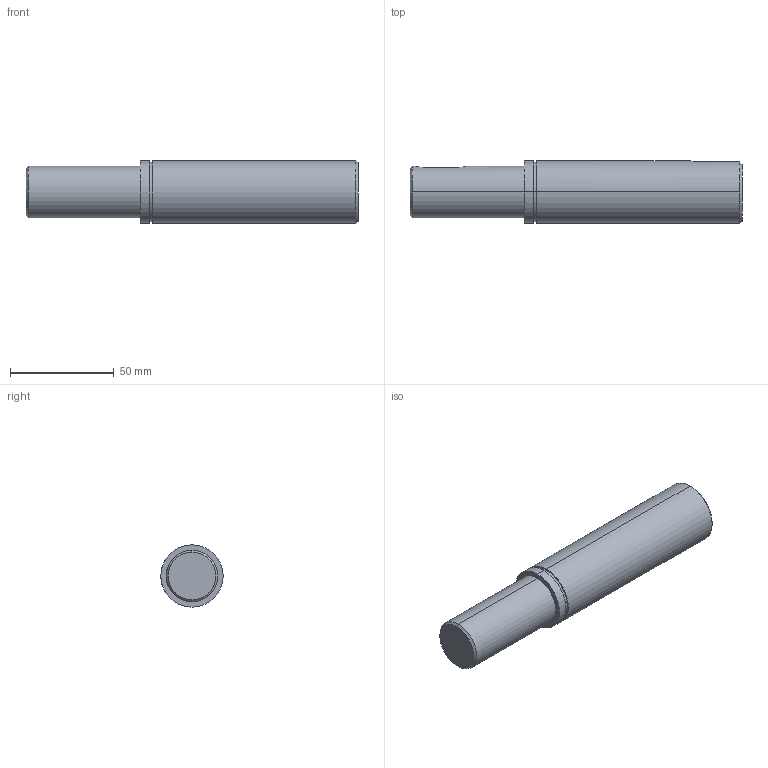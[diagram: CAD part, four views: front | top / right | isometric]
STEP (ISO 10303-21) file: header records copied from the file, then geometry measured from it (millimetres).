
FILE_DESCRIPTION (( 'STEP AP203' ), '1' );
FILE_NAME ('084.813.002.STEP', '2013-01-29T14:05:03', ( 'Alusic' ), ( 'Alusic' ), 'SwSTEP 2.0', 'SolidWorks 2011', '' );
FILE_SCHEMA (( 'CONFIG_CONTROL_DESIGN' ));
Length unit declared in the file: millimetre
Products named in the file (1): 084.813.002
Bounding box: 160 x 30 x 30 mm (x, y, z)
Volume: 99588.4 mm3; surface area: 16013.2 mm2
Topology: 1 solids, 1 shells, 27 faces, 59 edges, 38 vertices
Faces by surface type: cylinder 11, plane 11, cone 5
Entity records: 916 total; most frequent: CARTESIAN_POINT 228, DIRECTION 135, ORIENTED_EDGE 118, EDGE_CURVE 59, AXIS2_PLACEMENT_3D 53, VERTEX_POINT 38, EDGE_LOOP 31, LINE 29
